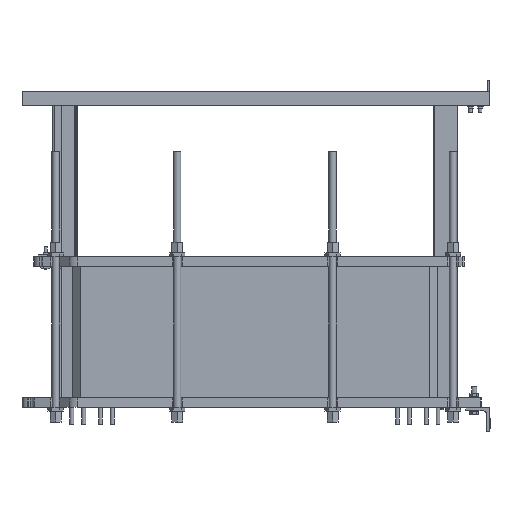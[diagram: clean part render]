
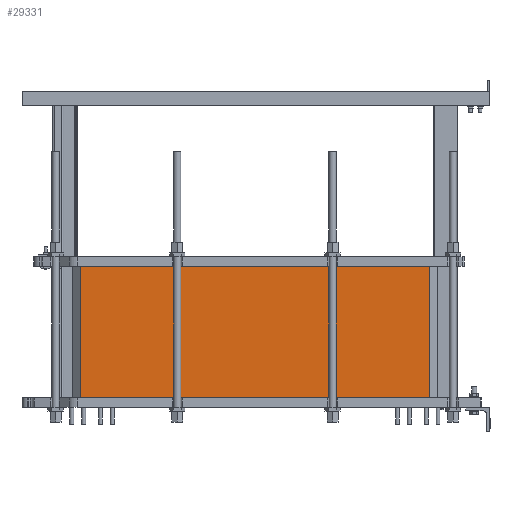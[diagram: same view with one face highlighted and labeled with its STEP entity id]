
A CAD part, left-side view. The second image highlights one B-rep face of the part: STEP entity #29331.
In plain terms, the highlighted planar face has unit normal (-1, 0, 0).
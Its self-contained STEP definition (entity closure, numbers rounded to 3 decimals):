
#21680=CARTESIAN_POINT('',(-187.5,705.0,580.0));
#21681=VERTEX_POINT('',#21680);
#21688=CARTESIAN_POINT('',(-187.5,-731.0,580.0));
#21689=VERTEX_POINT('',#21688);
#21690=CARTESIAN_POINT('',(-187.5,-731.0,580.0));
#21691=DIRECTION('',(0.0,1.0,0.0));
#21692=VECTOR('',#21691,1436.0);
#21693=LINE('',#21690,#21692);
#21694=EDGE_CURVE('',#21689,#21681,#21693,.T.);
#28280=CARTESIAN_POINT('',(-187.5,-731.0,40.0));
#28281=VERTEX_POINT('',#28280);
#28288=CARTESIAN_POINT('',(-187.5,705.0,40.0));
#28289=VERTEX_POINT('',#28288);
#28290=CARTESIAN_POINT('',(-187.5,-731.0,40.0));
#28291=DIRECTION('',(0.0,1.0,0.0));
#28292=VECTOR('',#28291,1436.0);
#28293=LINE('',#28290,#28292);
#28294=EDGE_CURVE('',#28281,#28289,#28293,.T.);
#29306=CARTESIAN_POINT('',(-187.5,705.0,40.0));
#29307=DIRECTION('',(0.0,0.0,1.0));
#29308=VECTOR('',#29307,540.0);
#29309=LINE('',#29306,#29308);
#29310=EDGE_CURVE('',#28289,#21681,#29309,.T.);
#29315=CARTESIAN_POINT('',(-187.5,-731.0,40.0));
#29316=DIRECTION('',(-1.0,0.0,0.0));
#29317=DIRECTION('',(0.0,0.0,1.0));
#29318=AXIS2_PLACEMENT_3D('',#29315,#29316,#29317);
#29319=PLANE('',#29318);
#29320=ORIENTED_EDGE('',*,*,#21694,.T.);
#29321=ORIENTED_EDGE('',*,*,#29310,.F.);
#29322=ORIENTED_EDGE('',*,*,#28294,.F.);
#29323=CARTESIAN_POINT('',(-187.5,-731.0,40.0));
#29324=DIRECTION('',(0.0,0.0,1.0));
#29325=VECTOR('',#29324,540.0);
#29326=LINE('',#29323,#29325);
#29327=EDGE_CURVE('',#28281,#21689,#29326,.T.);
#29328=ORIENTED_EDGE('',*,*,#29327,.T.);
#29329=EDGE_LOOP('',(#29320,#29321,#29322,#29328));
#29330=FACE_OUTER_BOUND('',#29329,.T.);
#29331=ADVANCED_FACE('',(#29330),#29319,.T.);
